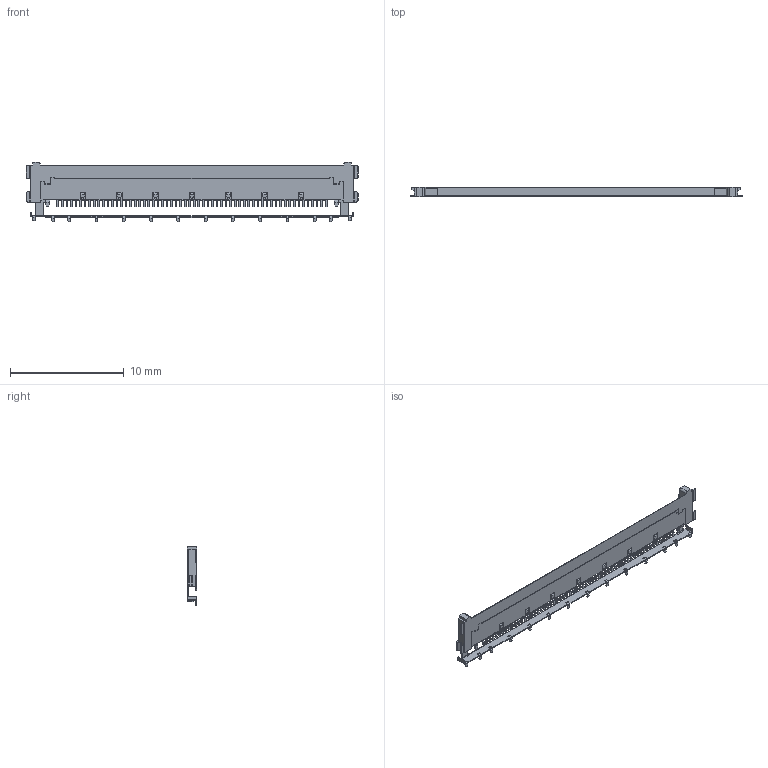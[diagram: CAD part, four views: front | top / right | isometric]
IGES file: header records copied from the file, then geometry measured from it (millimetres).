
Start section: SolidWorks IGES file using analytic representation for surfaces
Global section: file name: C:\3dworks\‘C‰i\CAII PLUS 60P STEP 161111\PLUG RECE\60P PLUS RECE IGES.IGS; native system: SolidWorks 2014; preprocessor: SolidWorks 2014; author: ieng2-005; date: 170519.182407; units: millimetre
Bounding box: 29.2 x 0.82 x 5.23 mm (x, y, z)
Surface area: 334.8 mm2 (no closed solid volume)
Topology: 0 solids, 0 shells, 1723 faces, 11422 edges, 11422 vertices
Faces by surface type: bspline 1238, revolution 485
